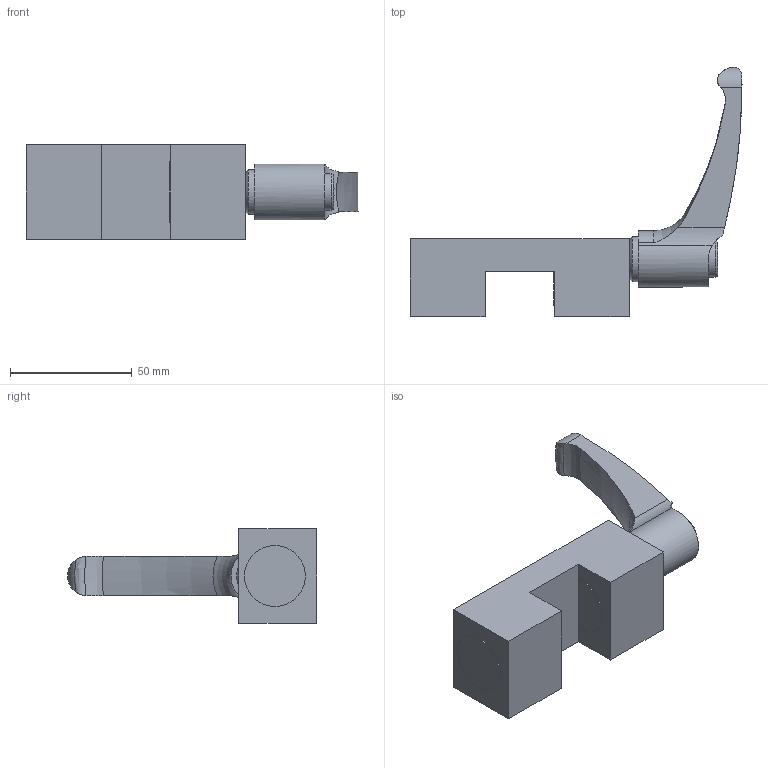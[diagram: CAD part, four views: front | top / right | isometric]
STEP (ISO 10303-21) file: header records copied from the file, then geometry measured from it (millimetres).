
FILE_DESCRIPTION(/* description */ ('STEP AP214'),/* implementation_level */ '2;1');
FILE_NAME(/* name */ 'HK3001A',/* time_stamp */ '2023-04-26T07:30:28+02:00',/* author */ ('License CC BY-ND 4.0'),/* organization */ ('CADENAS'),/* preprocessor_version */ 'ST-DEVELOPER v19.3',/* originating_system */ 'PARTsolutions',/* authorisation */ ' ');
FILE_SCHEMA (('AUTOMOTIVE_DESIGN {1 0 10303 214 3 1 1}'));
Length unit declared in the file: millimetre
Products named in the file (3): HK3001A; ELESA-Klemmhebel GN 604-78-M8-SG_NBK; ghkHK3001A84028
Assembly tree (2 placements, depth 2):
  HK3001A
    ELESA-Klemmhebel GN 604-78-M8-SG_NBK
    ghkHK3001A84028
Bounding box: 136.46 x 102.38 x 39 mm (x, y, z)
Volume: 117348.4 mm3; surface area: 23507.5 mm2
Topology: 2 solids, 2 shells, 64 faces, 163 edges, 108 vertices
Faces by surface type: plane 28, cylinder 17, torus 10, cone 9
Full cylindrical faces by diameter (mm): 4.917 x4, 6.647 x1, 18.5 x1, 25 x2
Entity records: 1928 total; most frequent: CARTESIAN_POINT 456, DIRECTION 276, ORIENTED_EDGE 270, EDGE_CURVE 135, AXIS2_PLACEMENT_3D 108, VERTEX_POINT 102, FACE_BOUND 91, EDGE_LOOP 87
